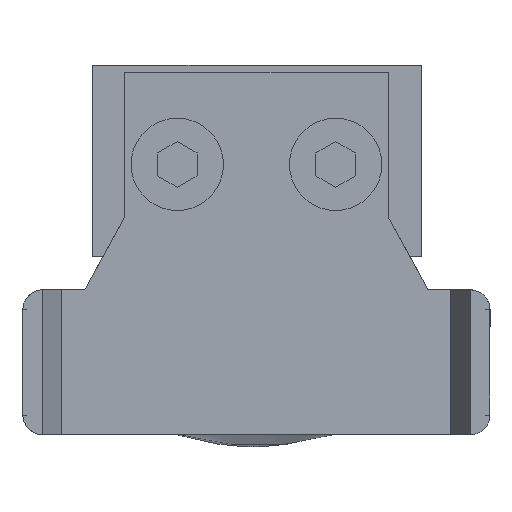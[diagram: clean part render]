
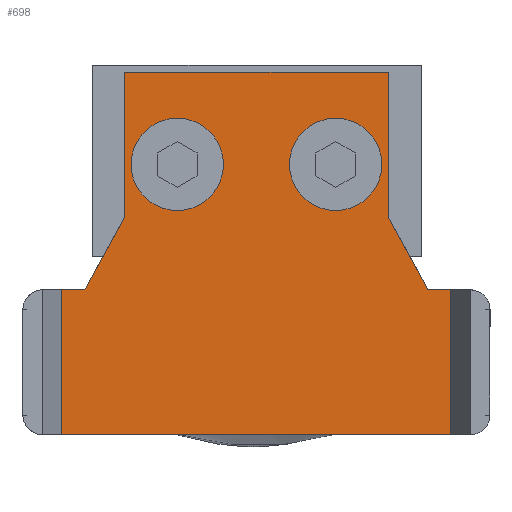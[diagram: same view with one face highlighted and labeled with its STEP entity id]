
A CAD part, left-side view. The second image highlights one B-rep face of the part: STEP entity #698.
In plain terms, the highlighted planar face has unit normal (-1, 0, 0).
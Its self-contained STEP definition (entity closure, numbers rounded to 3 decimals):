
#168 = ORIENTED_EDGE ( 'NONE', *, *, #4608, .F. ) ;
#331 = AXIS2_PLACEMENT_3D ( 'NONE', #392, #3378, #1575 ) ;
#345 = CIRCLE ( 'NONE', #4599, 3.5 ) ;
#392 = CARTESIAN_POINT ( 'NONE',  ( 4., 0., 0. ) ) ;
#419 = CARTESIAN_POINT ( 'NONE',  ( 4., 9.5, -6. ) ) ;
#616 = VECTOR ( 'NONE', #7318, 1000. ) ;
#698 = ADVANCED_FACE ( 'NONE', ( #4387, #6856, #7807 ), #6384, .F. ) ;
#743 = CARTESIAN_POINT ( 'NONE',  ( 4., 16.5, -10. ) ) ;
#754 = ORIENTED_EDGE ( 'NONE', *, *, #5791, .F. ) ;
#813 = DIRECTION ( 'NONE',  ( 0., 0., 1. ) ) ;
#976 = VECTOR ( 'NONE', #3019, 1000. ) ;
#981 = LINE ( 'NONE', #1848, #616 ) ;
#1006 = EDGE_CURVE ( 'NONE', #1550, #6845, #6172, .T. ) ;
#1014 = ORIENTED_EDGE ( 'NONE', *, *, #7626, .T. ) ;
#1106 = CARTESIAN_POINT ( 'NONE',  ( 4., 9.5, 6. ) ) ;
#1283 = CARTESIAN_POINT ( 'NONE',  ( 4., 5.5, -10. ) ) ;
#1372 = VERTEX_POINT ( 'NONE', #4159 ) ;
#1381 = VECTOR ( 'NONE', #5808, 1000. ) ;
#1422 = EDGE_CURVE ( 'NONE', #3410, #6997, #6259, .T. ) ;
#1550 = VERTEX_POINT ( 'NONE', #7538 ) ;
#1575 = DIRECTION ( 'NONE',  ( 0., 0., -1. ) ) ;
#1663 = AXIS2_PLACEMENT_3D ( 'NONE', #4992, #4890, #6900 ) ;
#1701 = DIRECTION ( 'NONE',  ( -1., 0., 0. ) ) ;
#1795 = CARTESIAN_POINT ( 'NONE',  ( 4., 0., 0. ) ) ;
#1848 = CARTESIAN_POINT ( 'NONE',  ( 4., 0., -14.744 ) ) ;
#1916 = CIRCLE ( 'NONE', #2218, 3.5 ) ;
#1971 = CARTESIAN_POINT ( 'NONE',  ( 4., -11., 20. ) ) ;
#2033 = LINE ( 'NONE', #1971, #2140 ) ;
#2121 = EDGE_LOOP ( 'NONE', ( #5214, #5811, #5195, #4183, #7351, #6627, #6797, #1014, #754, #4382 ) ) ;
#2122 = CIRCLE ( 'NONE', #1663, 3.5 ) ;
#2130 = LINE ( 'NONE', #5918, #1381 ) ;
#2140 = VECTOR ( 'NONE', #813, 1000. ) ;
#2178 = VECTOR ( 'NONE', #2684, 1000. ) ;
#2186 = LINE ( 'NONE', #1795, #976 ) ;
#2218 = AXIS2_PLACEMENT_3D ( 'NONE', #419, #5252, #5855 ) ;
#2236 = CARTESIAN_POINT ( 'NONE',  ( 4., 9.5, 9.5 ) ) ;
#2584 = DIRECTION ( 'NONE',  ( 0., 0., 1. ) ) ;
#2644 = VECTOR ( 'NONE', #7297, 1000. ) ;
#2662 = CARTESIAN_POINT ( 'NONE',  ( 4., 9.5, -2.5 ) ) ;
#2674 = LINE ( 'NONE', #7347, #4007 ) ;
#2684 = DIRECTION ( 'NONE',  ( 0., 0.878, -0.479 ) ) ;
#3019 = DIRECTION ( 'NONE',  ( 0., 0., 1. ) ) ;
#3156 = CARTESIAN_POINT ( 'NONE',  ( 4., 16.5, 10. ) ) ;
#3245 = LINE ( 'NONE', #6884, #2178 ) ;
#3263 = CARTESIAN_POINT ( 'NONE',  ( 4., 9.5, -6. ) ) ;
#3288 = VERTEX_POINT ( 'NONE', #6705 ) ;
#3362 = DIRECTION ( 'NONE',  ( 0., -1., 0. ) ) ;
#3378 = DIRECTION ( 'NONE',  ( 1., 0., 0. ) ) ;
#3410 = VERTEX_POINT ( 'NONE', #2662 ) ;
#3669 = ORIENTED_EDGE ( 'NONE', *, *, #5229, .F. ) ;
#3674 = AXIS2_PLACEMENT_3D ( 'NONE', #3263, #7504, #3777 ) ;
#3777 = DIRECTION ( 'NONE',  ( 0., 0., -1. ) ) ;
#3794 = VERTEX_POINT ( 'NONE', #6679 ) ;
#3800 = VERTEX_POINT ( 'NONE', #1283 ) ;
#3829 = CARTESIAN_POINT ( 'NONE',  ( 4., 9.5, -9.5 ) ) ;
#3947 = EDGE_LOOP ( 'NONE', ( #3669, #168 ) ) ;
#3977 = EDGE_CURVE ( 'NONE', #6193, #4562, #2033, .T. ) ;
#4007 = VECTOR ( 'NONE', #2584, 1000. ) ;
#4159 = CARTESIAN_POINT ( 'NONE',  ( 4., 0., 14.744 ) ) ;
#4183 = ORIENTED_EDGE ( 'NONE', *, *, #6967, .T. ) ;
#4245 = CARTESIAN_POINT ( 'NONE',  ( 4., 5.5, -10. ) ) ;
#4260 = VERTEX_POINT ( 'NONE', #2236 ) ;
#4269 = LINE ( 'NONE', #6343, #4544 ) ;
#4277 = VECTOR ( 'NONE', #3362, 1000. ) ;
#4382 = ORIENTED_EDGE ( 'NONE', *, *, #6412, .F. ) ;
#4387 = FACE_OUTER_BOUND ( 'NONE', #2121, .T. ) ;
#4405 = EDGE_CURVE ( 'NONE', #6845, #6081, #2130, .T. ) ;
#4544 = VECTOR ( 'NONE', #7587, 1000. ) ;
#4562 = VERTEX_POINT ( 'NONE', #4754 ) ;
#4599 = AXIS2_PLACEMENT_3D ( 'NONE', #1106, #1701, #7164 ) ;
#4605 = CARTESIAN_POINT ( 'NONE',  ( 4., 0., 13. ) ) ;
#4608 = EDGE_CURVE ( 'NONE', #4260, #3794, #345, .T. ) ;
#4754 = CARTESIAN_POINT ( 'NONE',  ( 4., -11., 14.744 ) ) ;
#4890 = DIRECTION ( 'NONE',  ( -1., 0., 0. ) ) ;
#4992 = CARTESIAN_POINT ( 'NONE',  ( 4., 9.5, 6. ) ) ;
#5015 = DIRECTION ( 'NONE',  ( 0., 1., 0. ) ) ;
#5117 = CARTESIAN_POINT ( 'NONE',  ( 4., -11., -14.744 ) ) ;
#5138 = CARTESIAN_POINT ( 'NONE',  ( 4., 0., 14.744 ) ) ;
#5195 = ORIENTED_EDGE ( 'NONE', *, *, #6740, .F. ) ;
#5214 = ORIENTED_EDGE ( 'NONE', *, *, #3977, .T. ) ;
#5229 = EDGE_CURVE ( 'NONE', #3794, #4260, #2122, .T. ) ;
#5252 = DIRECTION ( 'NONE',  ( -1., 0., 0. ) ) ;
#5318 = LINE ( 'NONE', #5138, #4277 ) ;
#5453 = EDGE_CURVE ( 'NONE', #6997, #3410, #1916, .T. ) ;
#5619 = CARTESIAN_POINT ( 'NONE',  ( 4., 16.5, 10. ) ) ;
#5701 = VECTOR ( 'NONE', #5015, 1000. ) ;
#5791 = EDGE_CURVE ( 'NONE', #3288, #5997, #2674, .T. ) ;
#5808 = DIRECTION ( 'NONE',  ( 0., 0., -1. ) ) ;
#5811 = ORIENTED_EDGE ( 'NONE', *, *, #7043, .F. ) ;
#5855 = DIRECTION ( 'NONE',  ( 0., 0., -1. ) ) ;
#5918 = CARTESIAN_POINT ( 'NONE',  ( 4., 16.5, -10. ) ) ;
#5997 = VERTEX_POINT ( 'NONE', #7081 ) ;
#6081 = VERTEX_POINT ( 'NONE', #743 ) ;
#6112 = EDGE_LOOP ( 'NONE', ( #6604, #7287 ) ) ;
#6172 = LINE ( 'NONE', #5619, #5701 ) ;
#6193 = VERTEX_POINT ( 'NONE', #5117 ) ;
#6259 = CIRCLE ( 'NONE', #3674, 3.5 ) ;
#6343 = CARTESIAN_POINT ( 'NONE',  ( 4., 0., -13. ) ) ;
#6384 = PLANE ( 'NONE',  #331 ) ;
#6412 = EDGE_CURVE ( 'NONE', #6193, #3288, #981, .T. ) ;
#6604 = ORIENTED_EDGE ( 'NONE', *, *, #5453, .F. ) ;
#6627 = ORIENTED_EDGE ( 'NONE', *, *, #4405, .T. ) ;
#6679 = CARTESIAN_POINT ( 'NONE',  ( 4., 9.5, 2.5 ) ) ;
#6705 = CARTESIAN_POINT ( 'NONE',  ( 4., 0., -14.744 ) ) ;
#6740 = EDGE_CURVE ( 'NONE', #7729, #1372, #2186, .T. ) ;
#6797 = ORIENTED_EDGE ( 'NONE', *, *, #7362, .T. ) ;
#6845 = VERTEX_POINT ( 'NONE', #3156 ) ;
#6856 = FACE_BOUND ( 'NONE', #6112, .T. ) ;
#6884 = CARTESIAN_POINT ( 'NONE',  ( 4., 5.5, 10. ) ) ;
#6900 = DIRECTION ( 'NONE',  ( 0., 0., -1. ) ) ;
#6967 = EDGE_CURVE ( 'NONE', #7729, #1550, #3245, .T. ) ;
#6997 = VERTEX_POINT ( 'NONE', #3829 ) ;
#7043 = EDGE_CURVE ( 'NONE', #1372, #4562, #5318, .T. ) ;
#7081 = CARTESIAN_POINT ( 'NONE',  ( 4., 0., -13. ) ) ;
#7125 = LINE ( 'NONE', #4245, #2644 ) ;
#7164 = DIRECTION ( 'NONE',  ( 0., 0., -1. ) ) ;
#7287 = ORIENTED_EDGE ( 'NONE', *, *, #1422, .F. ) ;
#7297 = DIRECTION ( 'NONE',  ( 0., -1., 0. ) ) ;
#7318 = DIRECTION ( 'NONE',  ( 0., 1., 0. ) ) ;
#7347 = CARTESIAN_POINT ( 'NONE',  ( 4., 0., 0. ) ) ;
#7351 = ORIENTED_EDGE ( 'NONE', *, *, #1006, .T. ) ;
#7362 = EDGE_CURVE ( 'NONE', #6081, #3800, #7125, .T. ) ;
#7504 = DIRECTION ( 'NONE',  ( -1., 0., 0. ) ) ;
#7538 = CARTESIAN_POINT ( 'NONE',  ( 4., 5.5, 10. ) ) ;
#7587 = DIRECTION ( 'NONE',  ( 0., -0.878, -0.479 ) ) ;
#7626 = EDGE_CURVE ( 'NONE', #3800, #5997, #4269, .T. ) ;
#7729 = VERTEX_POINT ( 'NONE', #4605 ) ;
#7807 = FACE_BOUND ( 'NONE', #3947, .T. ) ;
